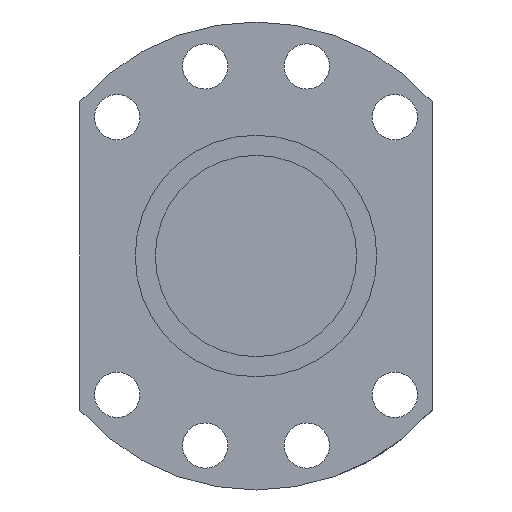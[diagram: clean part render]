
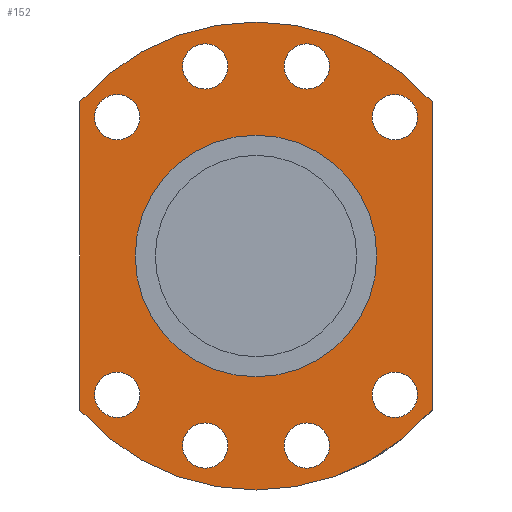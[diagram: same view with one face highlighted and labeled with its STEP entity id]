
A CAD part, front view. The second image highlights one B-rep face of the part: STEP entity #152.
In plain terms, the highlighted planar face has unit normal (0, -1, 0).
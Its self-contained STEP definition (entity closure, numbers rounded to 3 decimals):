
#103=LINE('',#935,#111);
#107=LINE('',#1006,#115);
#111=VECTOR('',#718,1.);
#115=VECTOR('',#730,1.);
#133=PLANE('',#644);
#152=ADVANCED_FACE('',(#223,#224,#225,#226,#227,#228,#229,#230,#231,#232),
#133,.F.);
#223=FACE_BOUND('',#305,.T.);
#224=FACE_BOUND('',#306,.T.);
#225=FACE_BOUND('',#307,.T.);
#226=FACE_BOUND('',#308,.T.);
#227=FACE_BOUND('',#309,.T.);
#228=FACE_BOUND('',#310,.T.);
#229=FACE_BOUND('',#311,.T.);
#230=FACE_BOUND('',#312,.T.);
#231=FACE_BOUND('',#313,.T.);
#232=FACE_BOUND('',#314,.T.);
#305=EDGE_LOOP('',(#404));
#306=EDGE_LOOP('',(#405));
#307=EDGE_LOOP('',(#406));
#308=EDGE_LOOP('',(#407));
#309=EDGE_LOOP('',(#408));
#310=EDGE_LOOP('',(#409));
#311=EDGE_LOOP('',(#410));
#312=EDGE_LOOP('',(#411));
#313=EDGE_LOOP('',(#412));
#314=EDGE_LOOP('',(#413,#414,#415,#416));
#404=ORIENTED_EDGE('',*,*,#541,.F.);
#405=ORIENTED_EDGE('',*,*,#542,.F.);
#406=ORIENTED_EDGE('',*,*,#543,.F.);
#407=ORIENTED_EDGE('',*,*,#544,.F.);
#408=ORIENTED_EDGE('',*,*,#545,.T.);
#409=ORIENTED_EDGE('',*,*,#546,.T.);
#410=ORIENTED_EDGE('',*,*,#547,.T.);
#411=ORIENTED_EDGE('',*,*,#548,.T.);
#412=ORIENTED_EDGE('',*,*,#549,.T.);
#413=ORIENTED_EDGE('',*,*,#519,.F.);
#414=ORIENTED_EDGE('',*,*,#530,.F.);
#415=ORIENTED_EDGE('',*,*,#527,.F.);
#416=ORIENTED_EDGE('',*,*,#523,.F.);
#472=VERTEX_POINT('',#927);
#473=VERTEX_POINT('',#928);
#476=VERTEX_POINT('',#936);
#479=VERTEX_POINT('',#1001);
#490=VERTEX_POINT('',#1029);
#491=VERTEX_POINT('',#1031);
#492=VERTEX_POINT('',#1033);
#493=VERTEX_POINT('',#1035);
#494=VERTEX_POINT('',#1037);
#495=VERTEX_POINT('',#1039);
#496=VERTEX_POINT('',#1041);
#497=VERTEX_POINT('',#1043);
#498=VERTEX_POINT('',#1045);
#519=EDGE_CURVE('',#472,#473,#569,.T.);
#523=EDGE_CURVE('',#473,#476,#103,.T.);
#527=EDGE_CURVE('',#476,#479,#571,.T.);
#530=EDGE_CURVE('',#479,#472,#107,.T.);
#541=EDGE_CURVE('',#490,#490,#582,.T.);
#542=EDGE_CURVE('',#491,#491,#583,.T.);
#543=EDGE_CURVE('',#492,#492,#584,.T.);
#544=EDGE_CURVE('',#493,#493,#585,.T.);
#545=EDGE_CURVE('',#494,#494,#586,.T.);
#546=EDGE_CURVE('',#495,#495,#587,.T.);
#547=EDGE_CURVE('',#496,#496,#588,.T.);
#548=EDGE_CURVE('',#497,#497,#589,.T.);
#549=EDGE_CURVE('',#498,#498,#590,.T.);
#569=CIRCLE('',#617,46.5);
#571=CIRCLE('',#621,46.5);
#582=CIRCLE('',#635,4.5);
#583=CIRCLE('',#636,4.5);
#584=CIRCLE('',#637,4.5);
#585=CIRCLE('',#638,4.5);
#586=CIRCLE('',#639,4.5);
#587=CIRCLE('',#640,4.5);
#588=CIRCLE('',#641,4.5);
#589=CIRCLE('',#642,4.5);
#590=CIRCLE('',#643,24.);
#617=AXIS2_PLACEMENT_3D('',#926,#710,#711);
#621=AXIS2_PLACEMENT_3D('',#1000,#723,#724);
#635=AXIS2_PLACEMENT_3D('',#1028,#754,#755);
#636=AXIS2_PLACEMENT_3D('',#1030,#756,#757);
#637=AXIS2_PLACEMENT_3D('',#1032,#758,#759);
#638=AXIS2_PLACEMENT_3D('',#1034,#760,#761);
#639=AXIS2_PLACEMENT_3D('',#1036,#762,#763);
#640=AXIS2_PLACEMENT_3D('',#1038,#764,#765);
#641=AXIS2_PLACEMENT_3D('',#1040,#766,#767);
#642=AXIS2_PLACEMENT_3D('',#1042,#768,#769);
#643=AXIS2_PLACEMENT_3D('',#1044,#770,#771);
#644=AXIS2_PLACEMENT_3D('',#1046,#772,#773);
#710=DIRECTION('',(0.,1.,0.));
#711=DIRECTION('',(1.,0.,0.));
#718=DIRECTION('',(0.,0.,-1.));
#723=DIRECTION('',(0.,1.,0.));
#724=DIRECTION('',(1.,0.,0.));
#730=DIRECTION('',(0.,0.,1.));
#754=DIRECTION('',(0.,-1.,0.));
#755=DIRECTION('',(-1.,0.,0.));
#756=DIRECTION('',(0.,-1.,0.));
#757=DIRECTION('',(-0.866,0.,-0.5));
#758=DIRECTION('',(0.,-1.,0.));
#759=DIRECTION('',(-0.5,0.,-0.866));
#760=DIRECTION('',(0.,-1.,0.));
#761=DIRECTION('',(0.,0.,-1.));
#762=DIRECTION('',(0.,1.,0.));
#763=DIRECTION('',(-1.,0.,0.));
#764=DIRECTION('',(0.,1.,0.));
#765=DIRECTION('',(-0.866,0.,0.5));
#766=DIRECTION('',(0.,1.,0.));
#767=DIRECTION('',(-0.5,0.,0.866));
#768=DIRECTION('',(0.,1.,0.));
#769=DIRECTION('',(0.,0.,1.));
#770=DIRECTION('',(0.,1.,0.));
#771=DIRECTION('',(0.,0.,1.));
#772=DIRECTION('',(0.,1.,0.));
#773=DIRECTION('',(0.,0.,-1.));
#926=CARTESIAN_POINT('',(0.,-27.5,0.));
#927=CARTESIAN_POINT('',(-35.,-27.5,30.615));
#928=CARTESIAN_POINT('',(35.,-27.5,30.615));
#935=CARTESIAN_POINT('',(35.,-27.5,30.615));
#936=CARTESIAN_POINT('',(35.,-27.5,-30.615));
#1000=CARTESIAN_POINT('',(0.,-27.5,0.));
#1001=CARTESIAN_POINT('',(-35.,-27.5,-30.615));
#1006=CARTESIAN_POINT('',(-35.,-27.5,-30.615));
#1028=CARTESIAN_POINT('',(27.577,-27.5,27.577));
#1029=CARTESIAN_POINT('',(23.077,-27.5,27.577));
#1030=CARTESIAN_POINT('',(10.094,-27.5,37.671));
#1031=CARTESIAN_POINT('',(6.197,-27.5,35.421));
#1032=CARTESIAN_POINT('',(-10.094,-27.5,37.671));
#1033=CARTESIAN_POINT('',(-12.344,-27.5,33.774));
#1034=CARTESIAN_POINT('',(-27.577,-27.5,27.577));
#1035=CARTESIAN_POINT('',(-27.577,-27.5,23.077));
#1036=CARTESIAN_POINT('',(27.577,-27.5,-27.577));
#1037=CARTESIAN_POINT('',(23.077,-27.5,-27.577));
#1038=CARTESIAN_POINT('',(10.094,-27.5,-37.671));
#1039=CARTESIAN_POINT('',(6.197,-27.5,-35.421));
#1040=CARTESIAN_POINT('',(-10.094,-27.5,-37.671));
#1041=CARTESIAN_POINT('',(-12.344,-27.5,-33.774));
#1042=CARTESIAN_POINT('',(-27.577,-27.5,-27.577));
#1043=CARTESIAN_POINT('',(-27.577,-27.5,-23.077));
#1044=CARTESIAN_POINT('',(0.,-27.5,0.));
#1045=CARTESIAN_POINT('',(0.,-27.5,24.));
#1046=CARTESIAN_POINT('',(0.,-27.5,0.));
